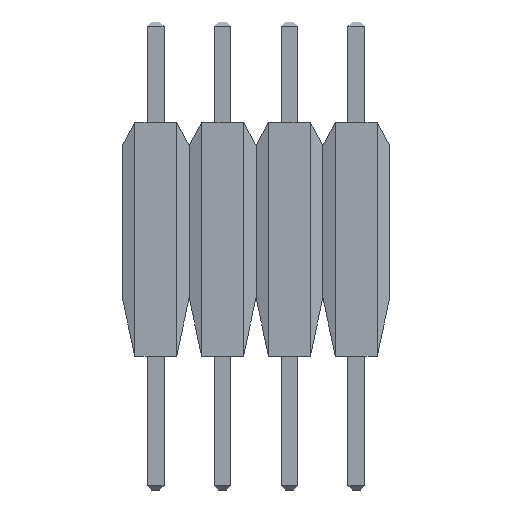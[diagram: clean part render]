
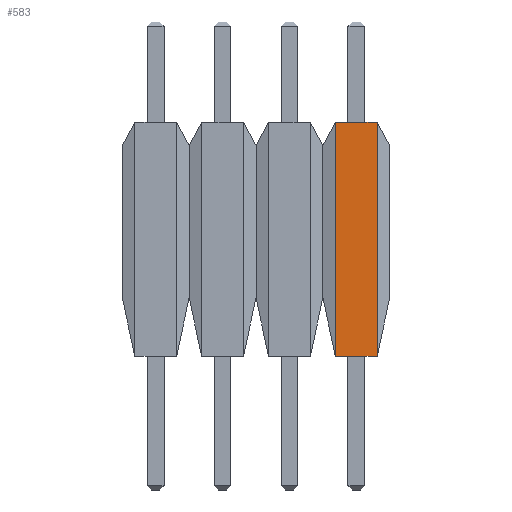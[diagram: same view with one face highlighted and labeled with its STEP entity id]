
A CAD part, front view. The second image highlights one B-rep face of the part: STEP entity #583.
In plain terms, the highlighted planar face has unit normal (0, -1, 0).
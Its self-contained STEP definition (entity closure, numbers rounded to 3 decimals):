
#222=CARTESIAN_POINT('',(4.604,-1.27,8.89));
#221=VERTEX_POINT('',#222);
#253=CARTESIAN_POINT('',(3.016,-1.27,8.89));
#252=VERTEX_POINT('',#253);
#249=EDGE_CURVE('',#221,#252,#254,.T.);
#254=LINE('',#222,#256);
#256=VECTOR('',#257,1.588);
#257=DIRECTION('',(-1.0,0.0,0.0));
#545=CARTESIAN_POINT('',(3.016,-1.27,0.0));
#544=VERTEX_POINT('',#545);
#553=EDGE_CURVE('',#252,#544,#558,.T.);
#558=LINE('',#253,#560);
#560=VECTOR('',#561,8.89);
#561=DIRECTION('',(0.0,0.0,-1.0));
#583=ADVANCED_FACE('',(#589),#584,.T.);
#584=PLANE('',#585);
#585=AXIS2_PLACEMENT_3D('',#586,#587,#588);
#586=CARTESIAN_POINT('',(3.016,-1.27,0.0));
#587=DIRECTION('',(0.0,-1.0,0.0));
#588=DIRECTION('',(0.,0.,1.));
#589=FACE_OUTER_BOUND('',#590,.T.);
#590=EDGE_LOOP('',(#591,#601,#611,#621));
#594=CARTESIAN_POINT('',(4.604,-1.27,0.0));
#593=VERTEX_POINT('',#594);
#592=EDGE_CURVE('',#593,#544,#597,.T.);
#597=LINE('',#594,#599);
#599=VECTOR('',#600,1.588);
#600=DIRECTION('',(-1.0,0.0,0.0));
#591=ORIENTED_EDGE('',*,*,#592,.F.);
#602=EDGE_CURVE('',#221,#593,#607,.T.);
#607=LINE('',#222,#609);
#609=VECTOR('',#610,8.89);
#610=DIRECTION('',(0.0,0.0,-1.0));
#601=ORIENTED_EDGE('',*,*,#602,.F.);
#611=ORIENTED_EDGE('',*,*,#249,.T.);
#621=ORIENTED_EDGE('',*,*,#553,.T.);
